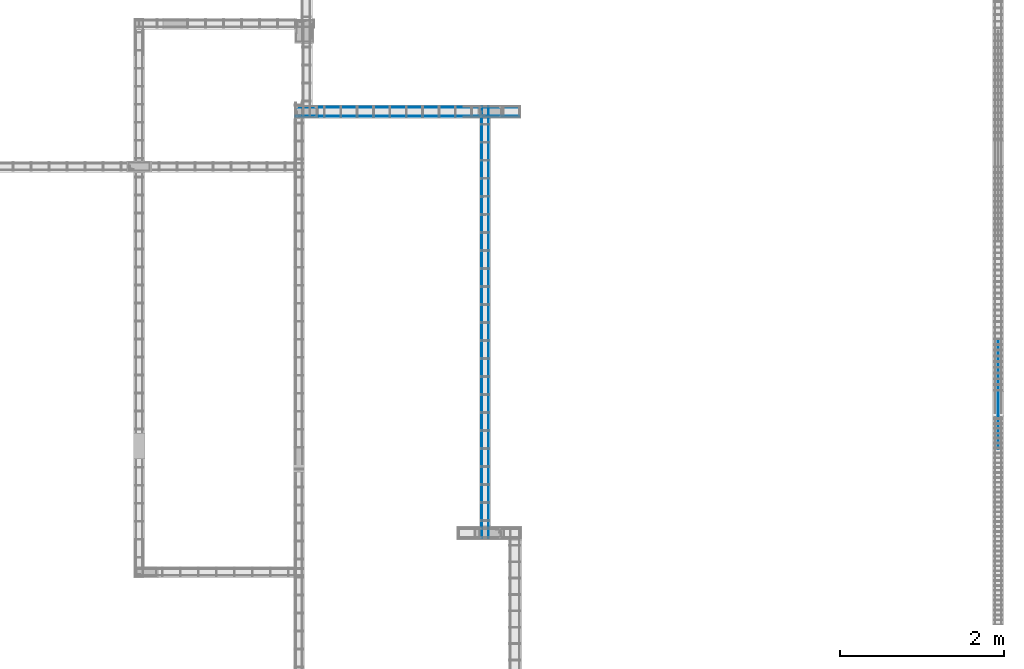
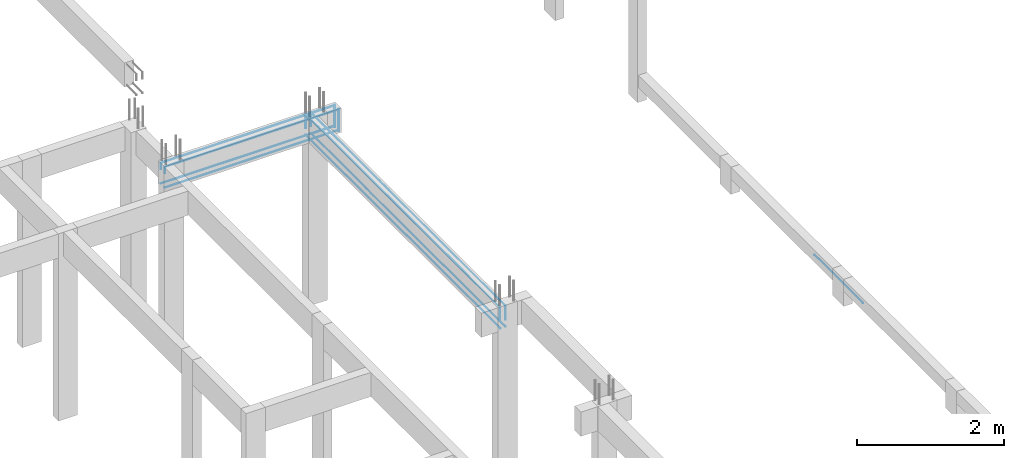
# One storey, part 112 of 236: 9 reinforcing bars.
"""IFC4 building model written with IfcOpenShell, lengths in centimetres."""

import ifcopenshell
import ifcopenshell.guid

model = None  # the IFC model being written
_history = None  # IfcOwnerHistory: only IFC2X3 demands one
_inside = {}  # id of a spatial element -> (the spatial element, [elements in it])
_under = {}  # id of a project, library or spatial element -> (it, [spatial elements below it])
_declared = {}  # id of a project -> (the project, [libraries it declares])
_typed = {}  # id of a type object -> (the type object, [elements of that type])
_made_of = {}  # id of a material, layer set ... -> (it, [elements and type objects made of it])


def new_model(schema):
    """Start an empty IFC model of exactly this schema.

    Asked for "IFC4X3", IfcOpenShell would pick the latest addendum, in which some entities
    have other attributes; the version numbers below select the first issue.
    IFC2X3 requires an IfcOwnerHistory on every rooted entity: one is made here for all.
    """
    global model, _history
    if schema == "IFC4X3":
        model = ifcopenshell.file(schema_version=(4, 3, 0, 0))
    else:
        model = ifcopenshell.file(schema=schema)
    _inside.clear()
    _under.clear()
    _declared.clear()
    _typed.clear()
    _made_of.clear()
    _history = None
    if model.schema == "IFC2X3":
        org = make("IfcOrganization", Name="unknown")
        user = make(
            "IfcPersonAndOrganization",
            ThePerson=make("IfcPerson", FamilyName="unknown"),
            TheOrganization=org,
        )
        app = make(
            "IfcApplication",
            ApplicationDeveloper=org,
            Version="unknown",
            ApplicationFullName="unknown",
            ApplicationIdentifier="unknown",
        )
        _history = make(
            "IfcOwnerHistory",
            OwningUser=user,
            OwningApplication=app,
            ChangeAction="ADDED",
            CreationDate=0,
        )
    return model


def make(cls, **values):
    """One entity of the class cls with the attributes given. An attribute that is None is left unset."""
    return model.create_entity(
        cls, **{name: value for name, value in values.items() if value is not None}
    )


def entity(cls, *values):
    """Any entity or typed value of the class cls, its attributes in the order of the schema. None: left unset."""
    e = model.create_entity(cls)
    for i, value in enumerate(values):
        if value is not None:
            e[i] = value
    return e


def rooted(cls, **values):
    """An entity with a GlobalId (a new one), such as an element, a storey or a relation."""
    return make(cls, GlobalId=ifcopenshell.guid.new(), OwnerHistory=_history, **values)


def si_unit(unit_type, name, prefix=None):
    """IfcSIUnit, for example si_unit("LENGTHUNIT", "METRE", prefix="MILLI")."""
    return make("IfcSIUnit", UnitType=unit_type, Prefix=prefix, Name=name)


def derived_unit(unit_type, elements):
    """IfcDerivedUnit: a product of units, each with its exponent."""
    return make(
        "IfcDerivedUnit",
        Elements=[
            make("IfcDerivedUnitElement", Unit=unit, Exponent=power)
            for unit, power in elements
        ],
        UnitType=unit_type,
    )


def assignment(units):
    """IfcUnitAssignment: the units of a project."""
    return None if units is None else make("IfcUnitAssignment", Units=units)


def point(xyz):
    """IfcCartesianPoint."""
    return None if xyz is None else make("IfcCartesianPoint", Coordinates=xyz)


def direction(xyz):
    """IfcDirection."""
    return None if xyz is None else make("IfcDirection", DirectionRatios=xyz)


def frame(location, z_axis=None, x_axis=None):
    """IfcAxis2Placement3D, a coordinate frame: its origin and axes. An axis left out is left unset."""
    return make(
        "IfcAxis2Placement3D",
        Location=point(location),
        Axis=direction(z_axis),
        RefDirection=direction(x_axis),
    )


def origin_with_axes():
    """The frame at (0, 0, 0) with the z axis (0, 0, 1) and the x axis (1, 0, 0) written out."""
    return frame((0.0, 0.0, 0.0), z_axis=(0.0, 0.0, 1.0), x_axis=(1.0, 0.0, 0.0))


def place(relative_to, where):
    """IfcLocalPlacement: puts the frame where relative to a parent placement (None: the world)."""
    return make(
        "IfcLocalPlacement", PlacementRelTo=relative_to, RelativePlacement=where
    )


def context(
    kind, dimensions, precision=None, world=None, true_north=None, identifier=None
):
    """IfcGeometricRepresentationContext, for example the 3D "Model" context."""
    return make(
        "IfcGeometricRepresentationContext",
        ContextIdentifier=identifier,
        ContextType=kind,
        CoordinateSpaceDimension=dimensions,
        Precision=precision,
        WorldCoordinateSystem=world,
        TrueNorth=true_north,
    )


def project(units=None, contexts=None):
    """IfcProject with its units and contexts."""
    return rooted(
        "IfcProject",
        Name="project",
        RepresentationContexts=contexts,
        UnitsInContext=assignment(units),
    )


def spatial(cls, under=None, at=None, **own):
    """A site, building, storey or space (cls), placed at a placement, below another one or the project."""
    s = rooted(cls, ObjectPlacement=at, **own)
    if under is not None:
        _under.setdefault(under.id(), (under, []))[1].append(s)
    return s


def shape(context_of_items, identifier, shape_type, items):
    """IfcShapeRepresentation: the items that make up one representation, for example the "Body"."""
    return make(
        "IfcShapeRepresentation",
        ContextOfItems=context_of_items,
        RepresentationIdentifier=identifier,
        RepresentationType=shape_type,
        Items=items,
    )


def made_of(thing, what):
    """Note that an element or type object is made of a material, layer set ...; save() writes the relation."""
    if what is not None:
        _made_of.setdefault(what.id(), (what, []))[1].append(thing)
    return thing


def element(
    cls,
    number,
    at=None,
    inside=None,
    cuts=None,
    type_object=None,
    material=None,
    context=None,
    identifier="Body",
    shape_type=None,
    held_by="IfcProductDefinitionShape",
    body=None,
    shapes=None,
    **own,
):
    """One element of the class cls, such as IfcWall. Its Tag is "e" and its number.

    at: its placement. inside: the storey or other place that contains it. cuts: it is an
    opening in that element (IfcRelVoidsElement). A single representation is given by context,
    identifier, shape_type and body (its items); several are given by shapes. held_by: the class
    of the entity that holds the representations. save() writes the other relations.
    """
    e = rooted(cls, Tag="e%d" % number, ObjectPlacement=at, **own)
    if body is not None:
        shapes = [shape(context, identifier, shape_type, body)]
    if shapes is not None:
        e.Representation = make(held_by, Representations=shapes)
    if inside is not None:
        _inside.setdefault(inside.id(), (inside, []))[1].append(e)
    if cuts is not None:
        rooted(
            "IfcRelVoidsElement", RelatingBuildingElement=cuts, RelatedOpeningElement=e
        )
    if type_object is not None:
        _typed.setdefault(type_object.id(), (type_object, []))[1].append(e)
    return made_of(e, material)


def aggregate(whole, parts):
    """IfcRelAggregates: a whole, such as a stair, and the parts it consists of."""
    return rooted("IfcRelAggregates", RelatingObject=whole, RelatedObjects=parts)


def save(model, path):
    """Write the relations noted so far, then the file.

    IfcRelAggregates (storeys below a building ...), IfcRelContainedInSpatialStructure (elements
    in a storey), IfcRelDefinesByType, IfcRelAssociatesMaterial and IfcRelDeclares: one each for
    every whole, place, type object, material and project.
    """
    for whole, parts in _under.values():
        aggregate(whole, parts)
    for where, things in _inside.values():
        rooted(
            "IfcRelContainedInSpatialStructure",
            RelatedElements=things,
            RelatingStructure=where,
        )
    for kind, things in _typed.values():
        rooted("IfcRelDefinesByType", RelatedObjects=things, RelatingType=kind)
    for what, things in _made_of.values():
        rooted("IfcRelAssociatesMaterial", RelatedObjects=things, RelatingMaterial=what)
    for by, libraries in _declared.values():
        rooted("IfcRelDeclares", RelatingContext=by, RelatedDefinitions=libraries)
    model.write(path)


model = new_model("IFC4")

# Units and contexts
model_context = context("Model", 3, precision=1e-05, world=origin_with_axes(), identifier="Body")
ifc_project = project(units=[si_unit("LENGTHUNIT", "METRE", prefix="CENTI"), si_unit("VOLUMEUNIT", "CUBIC_METRE"), si_unit("AREAUNIT", "SQUARE_METRE"), si_unit("POWERUNIT", "WATT"), si_unit("LUMINOUSFLUXUNIT", "LUMEN"), si_unit("ELECTRICCURRENTUNIT", "AMPERE"), si_unit("PRESSUREUNIT", "PASCAL", prefix="KILO"), si_unit("MASSUNIT", "GRAM", prefix="KILO"), si_unit("PLANEANGLEUNIT", "RADIAN"), derived_unit("VOLUMETRICFLOWRATEUNIT", [(si_unit("LENGTHUNIT", "METRE"), 3), (si_unit("TIMEUNIT", "SECOND"), -1)])], contexts=[model_context])

# Site, building, storey
site_placement = place(None, frame((-4000.0, 0.0, 0.0), z_axis=(0.0, 0.0, 1.0), x_axis=(1.0, 0.0, 0.0)))
site = spatial("IfcSite", under=ifc_project, at=site_placement, Name="PADRÃO")
building_placement = place(site_placement, frame((0.0, 0.0, -14.0)))
building = spatial("IfcBuilding", under=site, at=building_placement, Name="CRECHE PRÉ-ESCOLA TIPO 2")
placement_1 = place(building_placement, origin_with_axes())
placement_2 = place(placement_1, frame((0.0, 0.0, 30.0), z_axis=(0.0, 0.0, 1.0), x_axis=(1.0, 0.0, 0.0)))
storey_placement = place(placement_2, frame((0.0, 0.0, 310.0), z_axis=(0.0, 0.0, 1.0), x_axis=(1.0, 0.0, 0.0)))
storey = spatial("IfcBuildingStorey", under=building, at=storey_placement, Name="TERREO", CompositionType="ELEMENT", Elevation=326.0)

# Reinforcing bars
for number, where, z_axis, x_axis, name in (
    (1, (3271.0, 1820.62, -36.7), (0.0, 0.0, 1.0), (1.0, 0.0, 0.0), "V237 - Longitudinal inferior"),
    (2, (3271.0, 1809.42, -36.7), (0.0, 0.0, 1.0), (1.0, 0.0, 0.0), "V237 - Longitudinal inferior"),
):
    element("IfcReinforcingBar", number, at=place(storey_placement, frame(where, z_axis=z_axis, x_axis=x_axis)), inside=storey, Name=name, BarLength=0.0, CrossSectionArea=5.0265482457e-05, NominalDiameter=0.8, PredefinedType="MAIN", context=model_context, shape_type="AdvancedSweptSolid", body=[
        entity("IfcSweptDiskSolid", entity("IfcCompositeCurve", [entity("IfcCompositeCurveSegment", "CONTINUOUS", True, entity("IfcPolyline", [entity("IfcCartesianPoint", [-136.5, 0.0, -0.4]), entity("IfcCartesianPoint", [136.5, 0.0, -0.4])]))], False), 0.4),
    ])
for number, where, z_axis, x_axis, name in (
    (3, (3271.0, 1809.52, -2.49531217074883), (0.0, 0.0, 1.0), (1.0, 0.0, 0.0), "V237 - Longitudinal superior"),
    (4, (3271.0, 1820.52, -2.49531217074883), (0.0, 0.0, 1.0), (1.0, 0.0, 0.0), "V237 - Longitudinal superior"),
):
    element("IfcReinforcingBar", number, at=place(storey_placement, frame(where, z_axis=z_axis, x_axis=x_axis)), inside=storey, Name=name, BarLength=0.0, CrossSectionArea=7.853981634e-05, NominalDiameter=1.0, PredefinedType="MAIN", context=model_context, shape_type="AdvancedSweptSolid", body=[
        entity("IfcSweptDiskSolid", entity("IfcCompositeCurve", [entity("IfcCompositeCurveSegment", "CONTINUOUS", True, entity("IfcPolyline", [entity("IfcCartesianPoint", [-136.0, 0.0, -10.5046878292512]), entity("IfcCartesianPoint", [-136.0, 0.0, -0.504687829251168])])), entity("IfcCompositeCurveSegment", "CONTINUOUS", True, entity("IfcPolyline", [entity("IfcCartesianPoint", [-136.0, 0.0, -0.504687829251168]), entity("IfcCartesianPoint", [136.0, 0.0, -0.504687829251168])])), entity("IfcCompositeCurveSegment", "CONTINUOUS", True, entity("IfcPolyline", [entity("IfcCartesianPoint", [136.0, 0.0, -0.504687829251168]), entity("IfcCartesianPoint", [136.0, 0.0, -36.5046878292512])]))], False), 0.5),
    ])
for number, where, z_axis, x_axis, name in (
    (5, (3370.1, 1557.555, -36.7), (0.0, 0.0, 1.0), (1.0, 0.0, 0.0), "V314 - Longitudinal inferior"),
    (6, (3361.9, 1557.555, -36.7), (0.0, 0.0, 1.0), (1.0, 0.0, 0.0), "V314 - Longitudinal inferior"),
):
    element("IfcReinforcingBar", number, at=place(storey_placement, frame(where, z_axis=z_axis, x_axis=x_axis)), inside=storey, Name=name, BarLength=0.0, CrossSectionArea=5.0265482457e-05, NominalDiameter=0.8, PredefinedType="MAIN", context=model_context, shape_type="AdvancedSweptSolid", body=[
        entity("IfcSweptDiskSolid", entity("IfcCompositeCurve", [entity("IfcCompositeCurveSegment", "CONTINUOUS", True, entity("IfcPolyline", [entity("IfcCartesianPoint", [0.0, -263.965, -0.4]), entity("IfcCartesianPoint", [0.0, 263.965, -0.4])]))], False), 0.4),
    ])
for number, where, z_axis, x_axis, name in (
    (7, (3370.1, 1557.555, -2.49624973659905), (0.0, 0.0, 1.0), (1.0, 0.0, 0.0), "V314 - Longitudinal superior"),
    (8, (3361.9, 1557.555, -2.49624973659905), (0.0, 0.0, 1.0), (1.0, 0.0, 0.0), "V314 - Longitudinal superior"),
):
    element("IfcReinforcingBar", number, at=place(storey_placement, frame(where, z_axis=z_axis, x_axis=x_axis)), inside=storey, Name=name, BarLength=0.0, CrossSectionArea=5.0265482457e-05, NominalDiameter=0.8, PredefinedType="MAIN", context=model_context, shape_type="AdvancedSweptSolid", body=[
        entity("IfcSweptDiskSolid", entity("IfcCompositeCurve", [entity("IfcCompositeCurveSegment", "CONTINUOUS", True, entity("IfcPolyline", [entity("IfcCartesianPoint", [0.0, -263.565, -22.7014629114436]), entity("IfcCartesianPoint", [0.0, -263.565, -0.403750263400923])])), entity("IfcCompositeCurveSegment", "CONTINUOUS", True, entity("IfcPolyline", [entity("IfcCartesianPoint", [0.0, -263.565, -0.403750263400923]), entity("IfcCartesianPoint", [0.0, 263.565, -0.403750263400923])])), entity("IfcCompositeCurveSegment", "CONTINUOUS", True, entity("IfcPolyline", [entity("IfcCartesianPoint", [0.0, 263.565, -0.403750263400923]), entity("IfcCartesianPoint", [0.0, 263.565, -22.7014629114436])]))], False), 0.4),
    ])
reinforcing_bar_placement = place(storey_placement, frame((3993.0, 1468.39571428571, -281.7), z_axis=(0.0, 0.0, 1.0), x_axis=(1.0, 0.0, 0.0)))
element("IfcReinforcingBar", 9, at=reinforcing_bar_placement, inside=storey, Name="V331 - Longitudinal inferior", BarLength=0.0, CrossSectionArea=5.0265482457e-05, NominalDiameter=0.8, PredefinedType="MAIN", context=model_context, shape_type="AdvancedSweptSolid", body=[
    entity("IfcSweptDiskSolid", entity("IfcCompositeCurve", [entity("IfcCompositeCurveSegment", "CONTINUOUS", True, entity("IfcPolyline", [entity("IfcCartesianPoint", [0.0, -65.9583429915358, -0.4]), entity("IfcCartesianPoint", [0.0, 65.9583429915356, -0.4])]))], False), 0.4),
])

save(model, "model.ifc")
